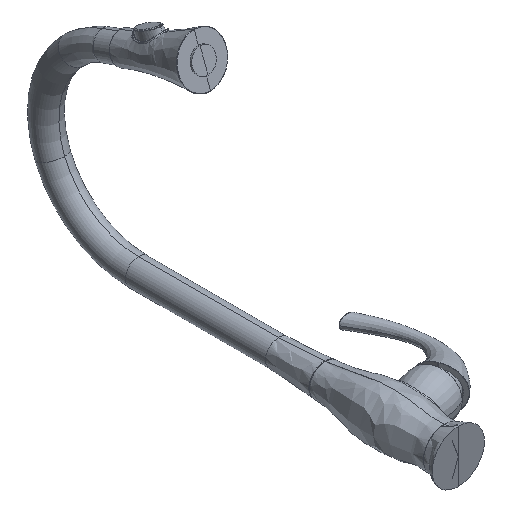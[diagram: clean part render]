
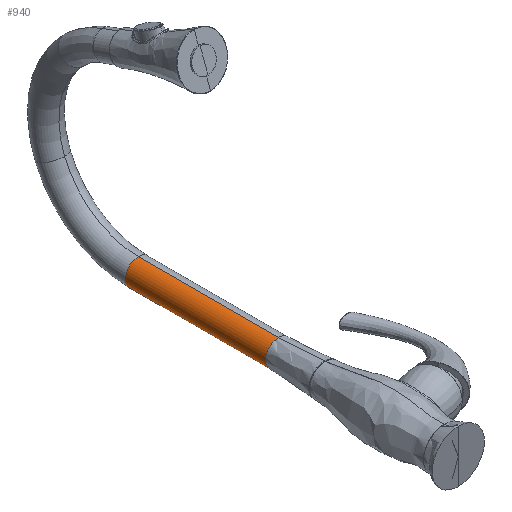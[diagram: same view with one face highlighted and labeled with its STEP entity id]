
A CAD part, isometric view. The second image highlights one B-rep face of the part: STEP entity #940.
In plain terms, the highlighted cylindrical face has radius 14.743 mm (diameter 29.486 mm), a partial arc.
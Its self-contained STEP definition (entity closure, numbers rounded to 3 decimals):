
#428 = CARTESIAN_POINT ( 'NONE',  ( 0., 203.607, -0.003 ) ) ;
#940 = ADVANCED_FACE ( 'NONE', ( #35735 ), #18784, .T. ) ;
#2534 = CIRCLE ( 'NONE', #31440, 14.743 ) ;
#3148 = ORIENTED_EDGE ( 'NONE', *, *, #8299, .F. ) ;
#4156 = DIRECTION ( 'NONE',  ( 0., 0., 1. ) ) ;
#4996 = AXIS2_PLACEMENT_3D ( 'NONE', #428, #24998, #12629 ) ;
#5283 = VECTOR ( 'NONE', #21260, 1000. ) ;
#6597 = ORIENTED_EDGE ( 'NONE', *, *, #14337, .F. ) ;
#6859 = CARTESIAN_POINT ( 'NONE',  ( 0., 362.23, 14.74 ) ) ;
#8299 = EDGE_CURVE ( 'NONE', #25029, #29550, #16176, .T. ) ;
#9857 = CARTESIAN_POINT ( 'NONE',  ( 0., 362.23, -0.003 ) ) ;
#10203 = CARTESIAN_POINT ( 'NONE',  ( 0., 203.607, -14.746 ) ) ;
#12629 = DIRECTION ( 'NONE',  ( 0., 0., -1. ) ) ;
#12976 = ORIENTED_EDGE ( 'NONE', *, *, #19380, .F. ) ;
#14337 = EDGE_CURVE ( 'NONE', #29550, #18717, #2534, .T. ) ;
#15633 = DIRECTION ( 'NONE',  ( 0., 0., 1. ) ) ;
#16176 = LINE ( 'NONE', #33600, #37799 ) ;
#17973 = CARTESIAN_POINT ( 'NONE',  ( 0., 362.23, -14.746 ) ) ;
#18717 = VERTEX_POINT ( 'NONE', #6859 ) ;
#18784 = CYLINDRICAL_SURFACE ( 'NONE', #23231, 14.743 ) ;
#19058 = DIRECTION ( 'NONE',  ( 0., 1., 0. ) ) ;
#19380 = EDGE_CURVE ( 'NONE', #30036, #25029, #27410, .T. ) ;
#21260 = DIRECTION ( 'NONE',  ( 0., 1., 0. ) ) ;
#21526 = DIRECTION ( 'NONE',  ( 0., 1., 0. ) ) ;
#23231 = AXIS2_PLACEMENT_3D ( 'NONE', #25066, #31097, #4156 ) ;
#24998 = DIRECTION ( 'NONE',  ( 0., -1., 0. ) ) ;
#25029 = VERTEX_POINT ( 'NONE', #10203 ) ;
#25066 = CARTESIAN_POINT ( 'NONE',  ( 0., 203.607, -0.003 ) ) ;
#25257 = EDGE_LOOP ( 'NONE', ( #3148, #12976, #33411, #6597 ) ) ;
#27410 = CIRCLE ( 'NONE', #4996, 14.743 ) ;
#29550 = VERTEX_POINT ( 'NONE', #17973 ) ;
#29729 = EDGE_CURVE ( 'NONE', #30036, #18717, #30212, .T. ) ;
#30036 = VERTEX_POINT ( 'NONE', #31087 ) ;
#30055 = CARTESIAN_POINT ( 'NONE',  ( 0., 203.607, 14.74 ) ) ;
#30212 = LINE ( 'NONE', #30055, #5283 ) ;
#31087 = CARTESIAN_POINT ( 'NONE',  ( 0., 203.607, 14.74 ) ) ;
#31097 = DIRECTION ( 'NONE',  ( 0., 1., 0. ) ) ;
#31440 = AXIS2_PLACEMENT_3D ( 'NONE', #9857, #19058, #15633 ) ;
#33411 = ORIENTED_EDGE ( 'NONE', *, *, #29729, .T. ) ;
#33600 = CARTESIAN_POINT ( 'NONE',  ( 0., 203.607, -14.746 ) ) ;
#35735 = FACE_OUTER_BOUND ( 'NONE', #25257, .T. ) ;
#37799 = VECTOR ( 'NONE', #21526, 1000. ) ;
